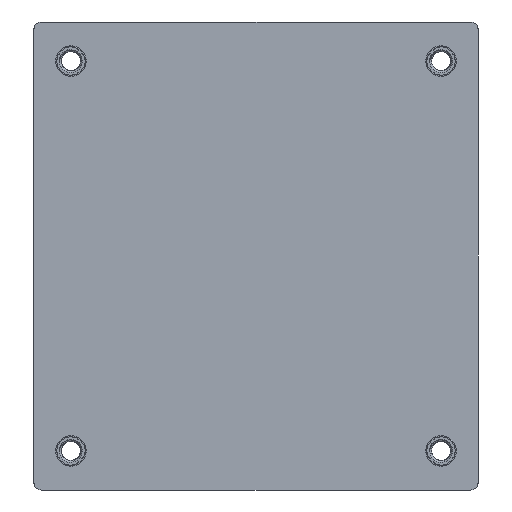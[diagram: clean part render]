
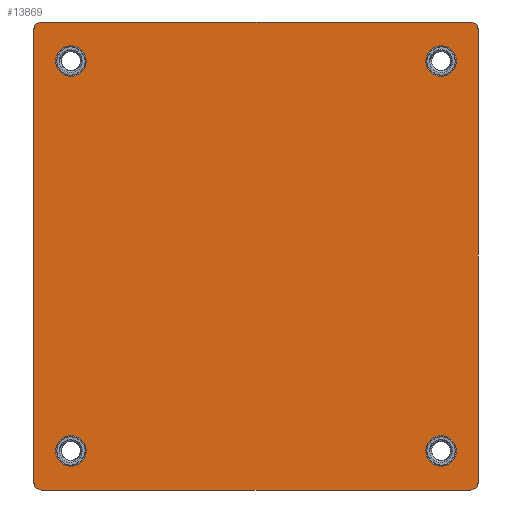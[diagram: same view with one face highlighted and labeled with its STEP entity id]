
A CAD part, front view. The second image highlights one B-rep face of the part: STEP entity #13869.
In plain terms, the highlighted planar face has unit normal (0, -1, 0).
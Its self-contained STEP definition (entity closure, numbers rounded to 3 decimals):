
#284 = DIRECTION ( 'NONE',  ( 0., 0., 1. ) ) ;
#397 = LINE ( 'NONE', #6982, #8681 ) ;
#569 = CARTESIAN_POINT ( 'NONE',  ( -24.13, -1.6, 27.4 ) ) ;
#631 = DIRECTION ( 'NONE',  ( 0., 0., 1. ) ) ;
#651 = FACE_BOUND ( 'NONE', #17291, .T. ) ;
#723 = LINE ( 'NONE', #16483, #4473 ) ;
#845 = CIRCLE ( 'NONE', #1320, 2. ) ;
#1045 = VERTEX_POINT ( 'NONE', #2895 ) ;
#1320 = AXIS2_PLACEMENT_3D ( 'NONE', #20175, #9217, #15917 ) ;
#1625 = EDGE_CURVE ( 'NONE', #21074, #4820, #17440, .T. ) ;
#1643 = VECTOR ( 'NONE', #24270, 1000. ) ;
#2310 = CARTESIAN_POINT ( 'NONE',  ( -27.95, -1.6, -30.5 ) ) ;
#2878 = CIRCLE ( 'NONE', #24793, 1. ) ;
#2895 = CARTESIAN_POINT ( 'NONE',  ( 27.95, -1.6, -30.5 ) ) ;
#3149 = ORIENTED_EDGE ( 'NONE', *, *, #20878, .F. ) ;
#3253 = DIRECTION ( 'NONE',  ( 0., -1., 0. ) ) ;
#3358 = CARTESIAN_POINT ( 'NONE',  ( 24.13, -1.6, -23.4 ) ) ;
#3519 = CARTESIAN_POINT ( 'NONE',  ( -28.95, -1.6, 29.5 ) ) ;
#4206 = CARTESIAN_POINT ( 'NONE',  ( 28.95, -1.6, 29.5 ) ) ;
#4258 = ORIENTED_EDGE ( 'NONE', *, *, #13902, .T. ) ;
#4473 = VECTOR ( 'NONE', #11693, 1000. ) ;
#4820 = VERTEX_POINT ( 'NONE', #2310 ) ;
#4888 = CIRCLE ( 'NONE', #26782, 1. ) ;
#5056 = CARTESIAN_POINT ( 'NONE',  ( 27.95, -1.6, 29.5 ) ) ;
#5111 = VERTEX_POINT ( 'NONE', #9353 ) ;
#5393 = VERTEX_POINT ( 'NONE', #3358 ) ;
#5460 = DIRECTION ( 'NONE',  ( 0., 0., 1. ) ) ;
#5476 = DIRECTION ( 'NONE',  ( 0., -1., 0. ) ) ;
#5902 = EDGE_CURVE ( 'NONE', #21074, #27226, #17970, .T. ) ;
#5933 = EDGE_LOOP ( 'NONE', ( #16140, #13410, #7664, #28844, #3149, #4258, #20701, #12977 ) ) ;
#6197 = ORIENTED_EDGE ( 'NONE', *, *, #28260, .T. ) ;
#6309 = CARTESIAN_POINT ( 'NONE',  ( 28.95, -1.6, -30.5 ) ) ;
#6519 = CARTESIAN_POINT ( 'NONE',  ( -24.13, -1.6, 25.4 ) ) ;
#6982 = CARTESIAN_POINT ( 'NONE',  ( -28.95, -1.6, -30.5 ) ) ;
#7014 = CARTESIAN_POINT ( 'NONE',  ( -28.95, -1.6, -30.5 ) ) ;
#7254 = ORIENTED_EDGE ( 'NONE', *, *, #18704, .T. ) ;
#7656 = PLANE ( 'NONE',  #14999 ) ;
#7664 = ORIENTED_EDGE ( 'NONE', *, *, #25832, .F. ) ;
#7696 = EDGE_CURVE ( 'NONE', #8630, #8630, #845, .T. ) ;
#7801 = CARTESIAN_POINT ( 'NONE',  ( -28.95, -1.6, 30.5 ) ) ;
#8302 = EDGE_LOOP ( 'NONE', ( #16501 ) ) ;
#8630 = VERTEX_POINT ( 'NONE', #22218 ) ;
#8681 = VECTOR ( 'NONE', #24364, 1000. ) ;
#9217 = DIRECTION ( 'NONE',  ( 0., 1., 0. ) ) ;
#9322 = VECTOR ( 'NONE', #284, 1000. ) ;
#9353 = CARTESIAN_POINT ( 'NONE',  ( 24.13, -1.6, 27.4 ) ) ;
#9442 = CIRCLE ( 'NONE', #28085, 2. ) ;
#9566 = CIRCLE ( 'NONE', #27275, 2. ) ;
#9715 = FACE_OUTER_BOUND ( 'NONE', #5933, .T. ) ;
#9739 = ORIENTED_EDGE ( 'NONE', *, *, #7696, .T. ) ;
#10927 = DIRECTION ( 'NONE',  ( 0., 0., 1. ) ) ;
#11693 = DIRECTION ( 'NONE',  ( 1., 0., 0. ) ) ;
#12560 = CARTESIAN_POINT ( 'NONE',  ( -28.95, -1.6, -29.5 ) ) ;
#12977 = ORIENTED_EDGE ( 'NONE', *, *, #23940, .T. ) ;
#13410 = ORIENTED_EDGE ( 'NONE', *, *, #1625, .T. ) ;
#13717 = VERTEX_POINT ( 'NONE', #569 ) ;
#13869 = ADVANCED_FACE ( 'NONE', ( #23161, #651, #23016, #25201, #9715 ), #7656, .F. ) ;
#13902 = EDGE_CURVE ( 'NONE', #16930, #19645, #2878, .T. ) ;
#14142 = EDGE_LOOP ( 'NONE', ( #6197 ) ) ;
#14164 = AXIS2_PLACEMENT_3D ( 'NONE', #14481, #3253, #16253 ) ;
#14206 = DIRECTION ( 'NONE',  ( 0., 1., 0. ) ) ;
#14481 = CARTESIAN_POINT ( 'NONE',  ( -27.95, -1.6, -29.5 ) ) ;
#14999 = AXIS2_PLACEMENT_3D ( 'NONE', #7801, #25333, #19053 ) ;
#15411 = DIRECTION ( 'NONE',  ( 0., 0., 1. ) ) ;
#15917 = DIRECTION ( 'NONE',  ( 0., 0., 1. ) ) ;
#16088 = EDGE_CURVE ( 'NONE', #5111, #5111, #9566, .T. ) ;
#16131 = CARTESIAN_POINT ( 'NONE',  ( 27.95, -1.6, -29.5 ) ) ;
#16140 = ORIENTED_EDGE ( 'NONE', *, *, #5902, .F. ) ;
#16253 = DIRECTION ( 'NONE',  ( 0., 0., 1. ) ) ;
#16474 = VERTEX_POINT ( 'NONE', #24683 ) ;
#16483 = CARTESIAN_POINT ( 'NONE',  ( -28.95, -1.6, 30.5 ) ) ;
#16501 = ORIENTED_EDGE ( 'NONE', *, *, #16088, .T. ) ;
#16831 = DIRECTION ( 'NONE',  ( 0., -1., 0. ) ) ;
#16930 = VERTEX_POINT ( 'NONE', #4206 ) ;
#17291 = EDGE_LOOP ( 'NONE', ( #9739 ) ) ;
#17402 = LINE ( 'NONE', #6309, #1643 ) ;
#17440 = CIRCLE ( 'NONE', #14164, 1. ) ;
#17785 = DIRECTION ( 'NONE',  ( 0., -1., 0. ) ) ;
#17970 = LINE ( 'NONE', #7014, #9322 ) ;
#18079 = CARTESIAN_POINT ( 'NONE',  ( -27.95, -1.6, 29.5 ) ) ;
#18461 = CARTESIAN_POINT ( 'NONE',  ( 24.13, -1.6, 25.4 ) ) ;
#18704 = EDGE_CURVE ( 'NONE', #13717, #13717, #19432, .T. ) ;
#19053 = DIRECTION ( 'NONE',  ( 0., 0., 1. ) ) ;
#19432 = CIRCLE ( 'NONE', #23622, 2. ) ;
#19602 = CARTESIAN_POINT ( 'NONE',  ( -27.95, -1.6, 30.5 ) ) ;
#19645 = VERTEX_POINT ( 'NONE', #28172 ) ;
#19859 = AXIS2_PLACEMENT_3D ( 'NONE', #16131, #16831, #25602 ) ;
#20175 = CARTESIAN_POINT ( 'NONE',  ( -24.13, -1.6, -25.4 ) ) ;
#20701 = ORIENTED_EDGE ( 'NONE', *, *, #22439, .F. ) ;
#20832 = DIRECTION ( 'NONE',  ( 0., 0., 1. ) ) ;
#20878 = EDGE_CURVE ( 'NONE', #16930, #16474, #17402, .T. ) ;
#21074 = VERTEX_POINT ( 'NONE', #12560 ) ;
#22218 = CARTESIAN_POINT ( 'NONE',  ( -24.13, -1.6, -23.4 ) ) ;
#22439 = EDGE_CURVE ( 'NONE', #23747, #19645, #723, .T. ) ;
#22653 = CIRCLE ( 'NONE', #19859, 1. ) ;
#23016 = FACE_BOUND ( 'NONE', #8302, .T. ) ;
#23161 = FACE_BOUND ( 'NONE', #14142, .T. ) ;
#23622 = AXIS2_PLACEMENT_3D ( 'NONE', #6519, #24194, #15411 ) ;
#23747 = VERTEX_POINT ( 'NONE', #19602 ) ;
#23821 = EDGE_LOOP ( 'NONE', ( #7254 ) ) ;
#23940 = EDGE_CURVE ( 'NONE', #23747, #27226, #4888, .T. ) ;
#24194 = DIRECTION ( 'NONE',  ( 0., 1., 0. ) ) ;
#24270 = DIRECTION ( 'NONE',  ( 0., 0., -1. ) ) ;
#24364 = DIRECTION ( 'NONE',  ( -1., 0., 0. ) ) ;
#24683 = CARTESIAN_POINT ( 'NONE',  ( 28.95, -1.6, -29.5 ) ) ;
#24793 = AXIS2_PLACEMENT_3D ( 'NONE', #5056, #5476, #20832 ) ;
#24906 = EDGE_CURVE ( 'NONE', #1045, #16474, #22653, .T. ) ;
#25201 = FACE_BOUND ( 'NONE', #23821, .T. ) ;
#25313 = CARTESIAN_POINT ( 'NONE',  ( 24.13, -1.6, -25.4 ) ) ;
#25333 = DIRECTION ( 'NONE',  ( 0., 1., 0. ) ) ;
#25602 = DIRECTION ( 'NONE',  ( 0., 0., 1. ) ) ;
#25832 = EDGE_CURVE ( 'NONE', #1045, #4820, #397, .T. ) ;
#26782 = AXIS2_PLACEMENT_3D ( 'NONE', #18079, #17785, #10927 ) ;
#27226 = VERTEX_POINT ( 'NONE', #3519 ) ;
#27275 = AXIS2_PLACEMENT_3D ( 'NONE', #18461, #28189, #631 ) ;
#28085 = AXIS2_PLACEMENT_3D ( 'NONE', #25313, #14206, #5460 ) ;
#28172 = CARTESIAN_POINT ( 'NONE',  ( 27.95, -1.6, 30.5 ) ) ;
#28189 = DIRECTION ( 'NONE',  ( 0., 1., 0. ) ) ;
#28260 = EDGE_CURVE ( 'NONE', #5393, #5393, #9442, .T. ) ;
#28844 = ORIENTED_EDGE ( 'NONE', *, *, #24906, .T. ) ;
